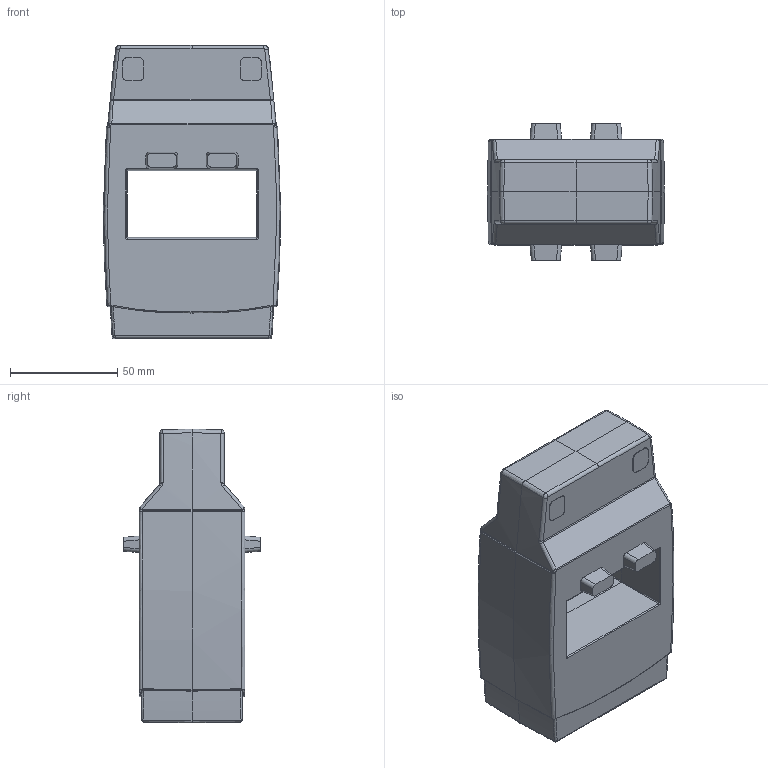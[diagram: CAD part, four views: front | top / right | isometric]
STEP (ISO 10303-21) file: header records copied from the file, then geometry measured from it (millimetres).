
FILE_DESCRIPTION(/* description */ (''),/* implementation_level */ '2;1');
FILE_NAME(/* name */ 'ENT.A60-T.stp',/* time_stamp */ '2021-03-18T13:26:46+03:00',/* author */ (''),/* organization */ (''),/* preprocessor_version */ 'ST-DEVELOPER v16',/* originating_system */ 'SIEMENS PLM Software NX 11.0',/* authorisation */ '');
FILE_SCHEMA (('AUTOMOTIVE_DESIGN { 1 0 10303 214 3 1 1 1 }'));
Length unit declared in the file: millimetre
Products named in the file (1): ENT.A60-T
Bounding box: 82.66 x 63.93 x 137.07 mm (x, y, z)
Volume: 392116.1 mm3; surface area: 45654.4 mm2
Topology: 1 solids, 1 shells, 212 faces, 529 edges, 323 vertices
Faces by surface type: bspline 68, plane 62, cylinder 58, torus 8, cone 8, sphere 4, extrusion 4
Entity records: 7887 total; most frequent: CARTESIAN_POINT 3289, ORIENTED_EDGE 1050, DIRECTION 827, EDGE_CURVE 525, VERTEX_POINT 323, AXIS2_PLACEMENT_3D 317, EDGE_LOOP 222, ADVANCED_FACE 212
